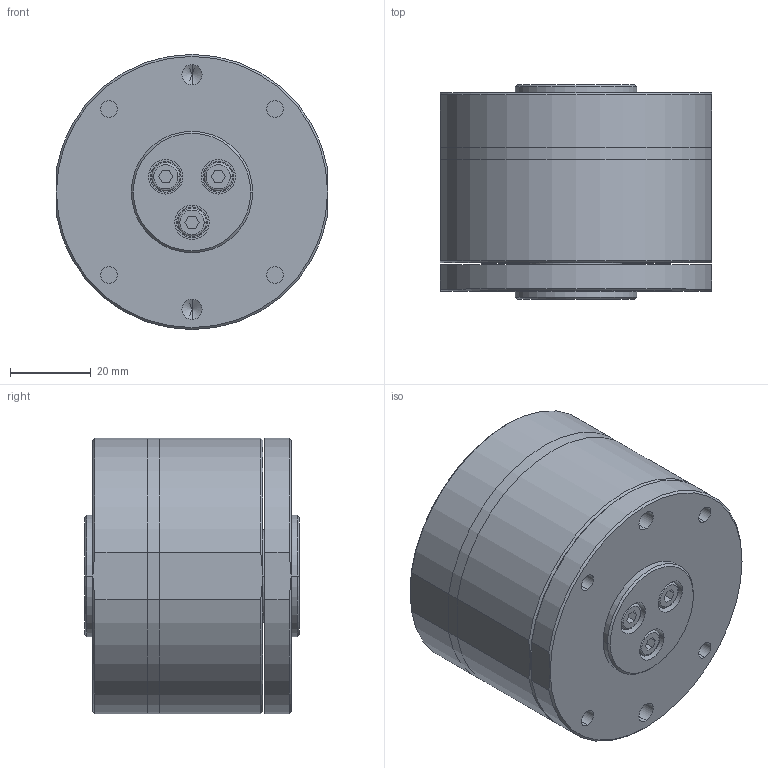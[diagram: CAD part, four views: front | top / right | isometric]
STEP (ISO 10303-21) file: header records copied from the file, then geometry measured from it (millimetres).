
FILE_DESCRIPTION (( 'STEP AP203' ), '1' );
FILE_NAME ('FCD-7RC-2-DDM.STEP', '2022-06-15T07:32:22', ( '' ), ( '' ), 'SwSTEP 2.0', 'SolidWorks 2021', '' );
FILE_SCHEMA (( 'CONFIG_CONTROL_DESIGN' ));
Length unit declared in the file: millimetre
Products named in the file (1): FCD-7RC-2-DDM
Bounding box: 67 x 53 x 68 mm (x, y, z)
Volume: 176712.6 mm3; surface area: 41309.2 mm2
Topology: 3 solids, 3 shells, 200 faces, 456 edges, 281 vertices
Faces by surface type: plane 84, cylinder 74, cone 28, torus 14
Entity records: 5605 total; most frequent: DIRECTION 1014, CARTESIAN_POINT 956, ORIENTED_EDGE 876, EDGE_CURVE 438, AXIS2_PLACEMENT_3D 387, VERTEX_POINT 281, EDGE_LOOP 245, LINE 240
